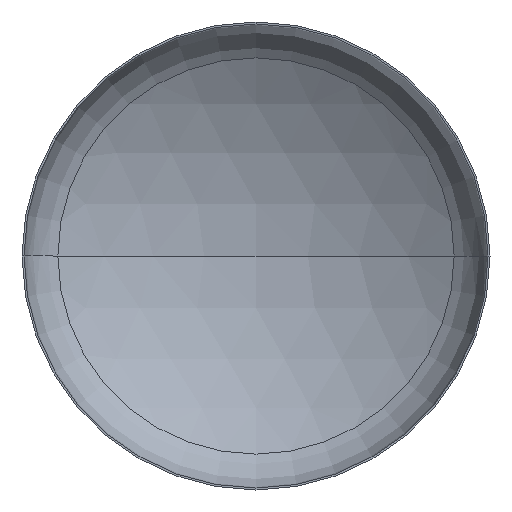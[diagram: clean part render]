
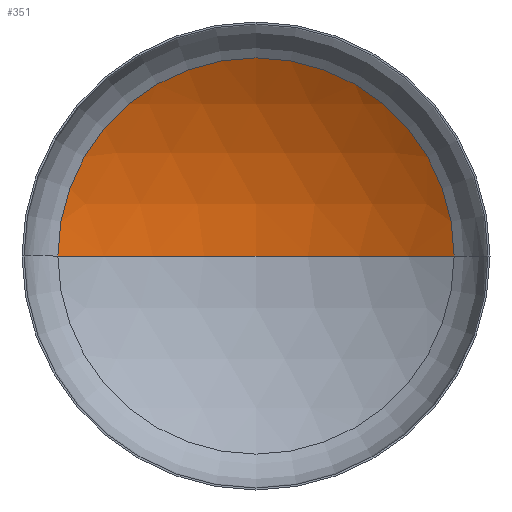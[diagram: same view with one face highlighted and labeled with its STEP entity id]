
A CAD part, front view. The second image highlights one B-rep face of the part: STEP entity #351.
In plain terms, the highlighted spherical face has radius 3200 mm.
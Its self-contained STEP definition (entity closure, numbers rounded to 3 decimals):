
#5 = DIRECTION ( 'NONE',  ( 0., -1., 0. ) ) ;
#7 = CARTESIAN_POINT ( 'NONE',  ( 0., 576.823, 0. ) ) ;
#11 = DIRECTION ( 'NONE',  ( -1., 0., 0. ) ) ;
#14 = EDGE_LOOP ( 'NONE', ( #57, #56, #116 ) ) ;
#56 = ORIENTED_EDGE ( 'NONE', *, *, #265, .T. ) ;
#57 = ORIENTED_EDGE ( 'NONE', *, *, #268, .F. ) ;
#91 = VERTEX_POINT ( 'NONE', #301 ) ;
#96 = DIRECTION ( 'NONE',  ( 0., 0., -1. ) ) ;
#106 = VERTEX_POINT ( 'NONE', #224 ) ;
#110 = VERTEX_POINT ( 'NONE', #350 ) ;
#114 = FACE_OUTER_BOUND ( 'NONE', #14, .T. ) ;
#116 = ORIENTED_EDGE ( 'NONE', *, *, #258, .T. ) ;
#121 = AXIS2_PLACEMENT_3D ( 'NONE', #135, #96, #139 ) ;
#135 = CARTESIAN_POINT ( 'NONE',  ( 0., -2138.354, 0. ) ) ;
#139 = DIRECTION ( 'NONE',  ( -1., 0., 0. ) ) ;
#149 = AXIS2_PLACEMENT_3D ( 'NONE', #196, #206, #203 ) ;
#157 = AXIS2_PLACEMENT_3D ( 'NONE', #225, #255, #11 ) ;
#162 = AXIS2_PLACEMENT_3D ( 'NONE', #7, #5, #282 ) ;
#196 = CARTESIAN_POINT ( 'NONE',  ( 0., -2138.354, 0. ) ) ;
#203 = DIRECTION ( 'NONE',  ( 1., 0., 0. ) ) ;
#206 = DIRECTION ( 'NONE',  ( 0., 0., 1. ) ) ;
#220 = CIRCLE ( 'NONE', #157, 3200. ) ;
#224 = CARTESIAN_POINT ( 'NONE',  ( 0., 1061.646, 0. ) ) ;
#225 = CARTESIAN_POINT ( 'NONE',  ( 0., -2138.354, 0. ) ) ;
#255 = DIRECTION ( 'NONE',  ( 0., 0., -1. ) ) ;
#258 = EDGE_CURVE ( 'NONE', #91, #110, #359, .T. ) ;
#265 = EDGE_CURVE ( 'NONE', #106, #91, #220, .T. ) ;
#268 = EDGE_CURVE ( 'NONE', #106, #110, #354, .T. ) ;
#282 = DIRECTION ( 'NONE',  ( 1., 0., 0. ) ) ;
#301 = CARTESIAN_POINT ( 'NONE',  ( 1693.462, 576.823, 0. ) ) ;
#343 = SPHERICAL_SURFACE ( 'NONE', #121, 3200. ) ;
#350 = CARTESIAN_POINT ( 'NONE',  ( -1693.462, 576.823, 0. ) ) ;
#351 = ADVANCED_FACE ( 'NONE', ( #114 ), #343, .F. ) ;
#354 = CIRCLE ( 'NONE', #149, 3200. ) ;
#359 = CIRCLE ( 'NONE', #162, 1693.462 ) ;
